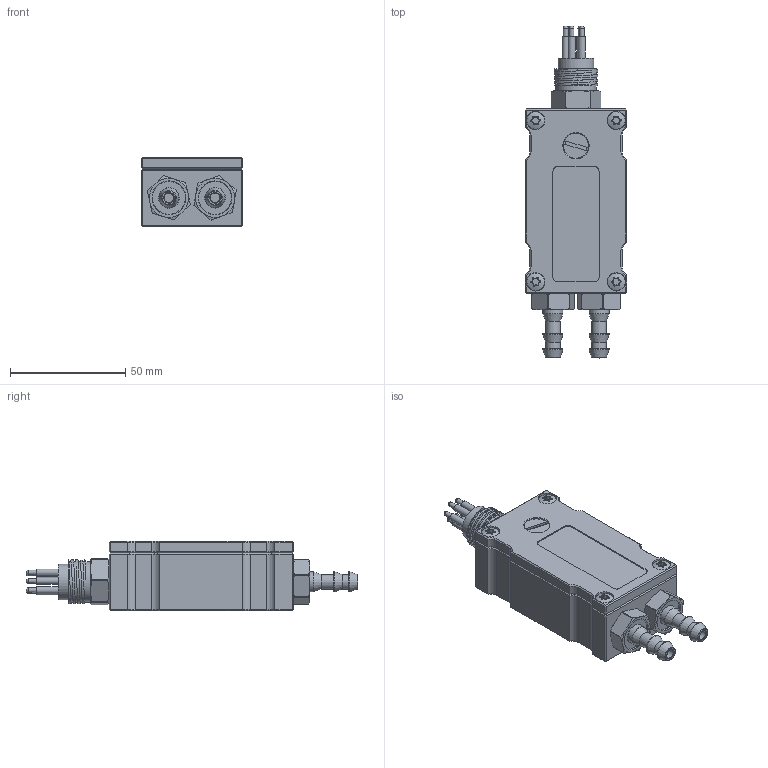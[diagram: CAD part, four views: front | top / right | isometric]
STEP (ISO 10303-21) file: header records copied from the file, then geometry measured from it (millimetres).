
FILE_DESCRIPTION(/* description */ (''),/* implementation_level */ '2;1');
FILE_NAME(/* name */ 'Z:\Vault_Workspace\Designs\Tangen\SPT-115\External\Connection_Box_MCBH-5M_public.stp',/* time_stamp */ '2016-04-29T14:25:02+02:00',/* author */ ('Hans'),/* organization */ ('Cadatech'),/* preprocessor_version */ 'ST-DEVELOPER v16.5',/* originating_system */ 'Autodesk Inventor 2017',/* authorisation */ '');
FILE_SCHEMA (('AUTOMOTIVE_DESIGN { 1 0 10303 214 3 1 1 }'));
Length unit declared in the file: millimetre
Products named in the file (1): Connection_Box_MCBH-5M_Shrinkwrap_1
Bounding box: 44 x 144 x 30.06 mm (x, y, z)
Volume: 112173.9 mm3; surface area: 20481.1 mm2
Topology: 1 solids, 1 shells, 433 faces, 967 edges, 562 vertices
Faces by surface type: plane 151, cylinder 128, cone 78, bspline 50, torus 17, sphere 9
Full cylindrical faces by diameter (mm): 2 x5, 3.05 x5, 3.242 x4, 4.1 x2, 6.35 x4, 8 x4, 8.7 x6, 11 x1, 14.5 x2, 15.5 x1, 17.6 x4
Entity records: 14170 total; most frequent: CARTESIAN_POINT 5082, DIRECTION 1754, ORIENTED_EDGE 1706, EDGE_CURVE 853, AXIS2_PLACEMENT_3D 713, EDGE_LOOP 534, VERTEX_POINT 531, STYLED_ITEM 430
